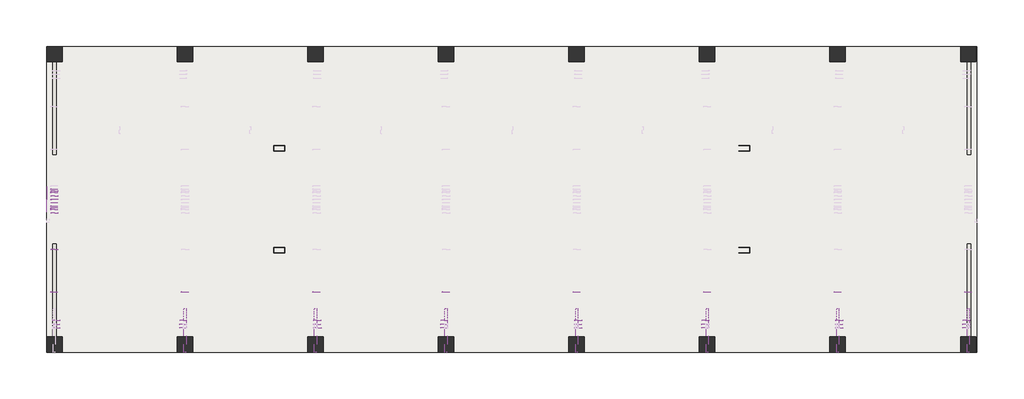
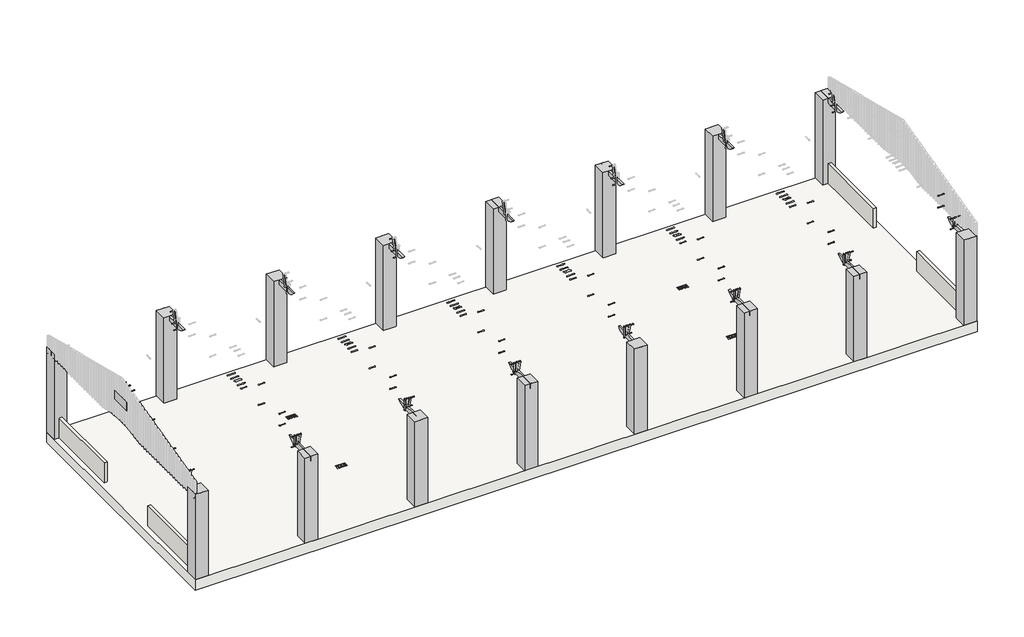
# One storey, part 1 of 3: 69 proxies, 16 columns, 4 walls, 1 slab.
"""IFC4 building model written with IfcOpenShell, lengths in millimetres."""

from ifc_helpers import new_model, si_unit, frame, origin, origin_with_axes, place, context, project, spatial, polyline, outline, extrude, faceted_brep, transform, mapped, element, save
from components import generic_models_fbdac11b, generic_models_01199cd2, generic_models_555904f9, generic_models_07221920, generic_models_79338df4, generic_models_0869e14e, generic_models_49826fd5, generic_models_b61af71a, generic_models_129ac0f9, m_coluna_retangular_430x430cm_ec2f5c71

model = new_model("IFC4")

# Units and contexts
model_context = context("Model", 3, world=origin())
ifc_project = project(units=[si_unit("LENGTHUNIT", "METRE", prefix="MILLI")], contexts=[model_context])

# Site, building, storey
site = spatial("IfcSite", under=ifc_project)
building = spatial("IfcBuilding", under=site)
storey = spatial("IfcBuildingStorey", under=building, Name="Nível 1", Elevation=0.0)

# Proxies
placement = place(None, origin())
generic_models_shape = generic_models_fbdac11b(model_context)
element("IfcBuildingElementProxy", 1, Name="Modelos genéricos 27 : Modelos genéricos 2", ObjectType="Modelos genéricos 27 : Modelos genéricos 2", at=placement, inside=storey, context=model_context, shape_type="MappedRepresentation", body=[
    mapped(generic_models_shape, transform((-57000.0, 0.0, 0.0), x_axis=(1.0, 0.0, 0.0), y_axis=(0.0, 1.0, 0.0), z_axis=(0.0, 0.0, 1.0))),
])
generic_models_2_shape = generic_models_01199cd2(model_context)
element("IfcBuildingElementProxy", 2, Name="Modelos genéricos 46 : Modelos genéricos 2", ObjectType="Modelos genéricos 46 : Modelos genéricos 2", at=placement, inside=storey, context=model_context, shape_type="MappedRepresentation", body=[
    mapped(generic_models_2_shape, transform((-57000.0, 0.0, 0.0), x_axis=(1.0, 0.0, 0.0), y_axis=(0.0, 1.0, 0.0), z_axis=(0.0, 0.0, 1.0))),
])
generic_models_3_shape = generic_models_555904f9(model_context)
element("IfcBuildingElementProxy", 3, Name="Modelos genéricos 65 : Modelos genéricos 2", ObjectType="Modelos genéricos 65 : Modelos genéricos 2", at=placement, inside=storey, context=model_context, shape_type="MappedRepresentation", body=[
    mapped(generic_models_3_shape, transform((-57000.0, 0.0, 0.0), x_axis=(1.0, 0.0, 0.0), y_axis=(0.0, 1.0, 0.0), z_axis=(0.0, 0.0, 1.0))),
])
generic_models_4_shape = generic_models_07221920(model_context)
element("IfcBuildingElementProxy", 4, Name="Modelos genéricos 84 : Modelos genéricos 2", ObjectType="Modelos genéricos 84 : Modelos genéricos 2", at=placement, inside=storey, context=model_context, shape_type="MappedRepresentation", body=[
    mapped(generic_models_4_shape, transform((-57000.0, 0.0, 0.0), x_axis=(1.0, 0.0, 0.0), y_axis=(0.0, 1.0, 0.0), z_axis=(0.0, 0.0, 1.0))),
])
generic_models_5_shape = generic_models_79338df4(model_context)
element("IfcBuildingElementProxy", 5, Name="Modelos genéricos 103 : Modelos genéricos 2", ObjectType="Modelos genéricos 103 : Modelos genéricos 2", at=placement, inside=storey, context=model_context, shape_type="MappedRepresentation", body=[
    mapped(generic_models_5_shape, transform((-57000.0, 0.0, 0.0), x_axis=(1.0, 0.0, 0.0), y_axis=(0.0, 1.0, 0.0), z_axis=(0.0, 0.0, 1.0))),
])
generic_models_6_shape = generic_models_0869e14e(model_context)
element("IfcBuildingElementProxy", 6, Name="Modelos genéricos 122 : Modelos genéricos 2", ObjectType="Modelos genéricos 122 : Modelos genéricos 2", at=placement, inside=storey, context=model_context, shape_type="MappedRepresentation", body=[
    mapped(generic_models_6_shape, transform((-57000.0, 0.0, 0.0), x_axis=(1.0, 0.0, 0.0), y_axis=(0.0, 1.0, 0.0), z_axis=(0.0, 0.0, 1.0))),
])
generic_models_7_shape = generic_models_49826fd5(model_context)
element("IfcBuildingElementProxy", 7, Name="Modelos genéricos 142 : Modelos genéricos 2", ObjectType="Modelos genéricos 142 : Modelos genéricos 2", at=placement, inside=storey, context=model_context, shape_type="MappedRepresentation", body=[
    mapped(generic_models_7_shape, transform((-57000.0, 0.0, 0.0), x_axis=(1.0, 0.0, 0.0), y_axis=(0.0, 1.0, 0.0), z_axis=(0.0, 0.0, 1.0))),
])
generic_models_8_shape = generic_models_b61af71a(model_context)
element("IfcBuildingElementProxy", 8, Name="Família5 : Família5", ObjectType="Família5 : Família5", at=placement, inside=storey, context=model_context, shape_type="MappedRepresentation", body=[
    mapped(generic_models_8_shape, transform((-12856.5527533, 1951.1238165, 3700.0), x_axis=(0.0, -1.0, 0.0), y_axis=(0.0, 0.0, 1.0), z_axis=(-1.0, 0.0, 0.0))),
])
generic_models_9_shape = generic_models_129ac0f9(model_context)
element("IfcBuildingElementProxy", 9, Name="parafuso : parafuso", ObjectType="parafuso : parafuso", at=placement, inside=storey, context=model_context, shape_type="MappedRepresentation", body=[
    mapped(generic_models_9_shape, transform((-12736.5527533, 1948.6238165, 4129.7515316), x_axis=(0.0, 1.0, 0.0), y_axis=(0.0, 0.0, -1.0), z_axis=(-1.0, 0.0, 0.0))),
])
element("IfcBuildingElementProxy", 10, Name="parafuso : parafuso", ObjectType="parafuso : parafuso", at=placement, inside=storey, context=model_context, shape_type="MappedRepresentation", body=[
    mapped(generic_models_9_shape, transform((-12736.5527533, 2183.6238165, 4104.7515316), x_axis=(0.0, 1.0, 0.0), y_axis=(0.0, 0.0, -1.0), z_axis=(-1.0, 0.0, 0.0))),
])
element("IfcBuildingElementProxy", 11, Name="parafuso : parafuso", ObjectType="parafuso : parafuso", at=placement, inside=storey, context=model_context, shape_type="MappedRepresentation", body=[
    mapped(generic_models_9_shape, transform((-12736.5527533, 1713.6238165, 4104.7515316), x_axis=(0.0, 1.0, 0.0), y_axis=(0.0, 0.0, -1.0), z_axis=(-1.0, 0.0, 0.0))),
])
element("IfcBuildingElementProxy", 12, Name="parafuso : parafuso", ObjectType="parafuso : parafuso", at=placement, inside=storey, context=model_context, shape_type="MappedRepresentation", body=[
    mapped(generic_models_9_shape, transform((-12736.5527533, 1948.6238165, 3080.0), x_axis=(0.0, 1.0, 0.0), y_axis=(0.0, 0.0, -1.0), z_axis=(-1.0, 0.0, 0.0))),
])
element("IfcBuildingElementProxy", 13, Name="parafuso : parafuso", ObjectType="parafuso : parafuso", at=placement, inside=storey, context=model_context, shape_type="MappedRepresentation", body=[
    mapped(generic_models_9_shape, transform((-12736.5527533, 2043.6238165, 3120.0), x_axis=(0.0, 1.0, 0.0), y_axis=(0.0, 0.0, -1.0), z_axis=(-1.0, 0.0, 0.0))),
])
element("IfcBuildingElementProxy", 14, Name="parafuso : parafuso", ObjectType="parafuso : parafuso", at=placement, inside=storey, context=model_context, shape_type="MappedRepresentation", body=[
    mapped(generic_models_9_shape, transform((-12736.5527533, 2138.6238165, 3040.0), x_axis=(0.0, 1.0, 0.0), y_axis=(0.0, 0.0, -1.0), z_axis=(-1.0, 0.0, 0.0))),
])
element("IfcBuildingElementProxy", 15, Name="parafuso : parafuso", ObjectType="parafuso : parafuso", at=placement, inside=storey, context=model_context, shape_type="MappedRepresentation", body=[
    mapped(generic_models_9_shape, transform((-12736.5527533, 2233.6238165, 3120.0), x_axis=(0.0, 1.0, 0.0), y_axis=(0.0, 0.0, -1.0), z_axis=(-1.0, 0.0, 0.0))),
])
element("IfcBuildingElementProxy", 16, Name="parafuso : parafuso", ObjectType="parafuso : parafuso", at=placement, inside=storey, context=model_context, shape_type="MappedRepresentation", body=[
    mapped(generic_models_9_shape, transform((-12736.5527533, 1853.6238165, 3120.0), x_axis=(0.0, 1.0, 0.0), y_axis=(0.0, 0.0, -1.0), z_axis=(-1.0, 0.0, 0.0))),
])
element("IfcBuildingElementProxy", 17, Name="parafuso : parafuso", ObjectType="parafuso : parafuso", at=placement, inside=storey, context=model_context, shape_type="MappedRepresentation", body=[
    mapped(generic_models_9_shape, transform((-12736.5527533, 1758.6238165, 3040.0), x_axis=(0.0, 1.0, 0.0), y_axis=(0.0, 0.0, -1.0), z_axis=(-1.0, 0.0, 0.0))),
])
element("IfcBuildingElementProxy", 18, Name="parafuso : parafuso", ObjectType="parafuso : parafuso", at=placement, inside=storey, context=model_context, shape_type="MappedRepresentation", body=[
    mapped(generic_models_9_shape, transform((-12736.5527533, 1663.6238165, 3120.0), x_axis=(0.0, 1.0, 0.0), y_axis=(0.0, 0.0, -1.0), z_axis=(-1.0, 0.0, 0.0))),
])
element("IfcBuildingElementProxy", 19, Name="parafuso : parafuso", ObjectType="parafuso : parafuso", at=placement, inside=storey, context=model_context, shape_type="MappedRepresentation", body=[
    mapped(generic_models_9_shape, transform((-12736.5527533, 1568.6238165, 3040.0), x_axis=(0.0, 1.0, 0.0), y_axis=(0.0, 0.0, -1.0), z_axis=(-1.0, 0.0, 0.0))),
])
element("IfcBuildingElementProxy", 20, Name="parafuso : parafuso", ObjectType="parafuso : parafuso", at=placement, inside=storey, context=model_context, shape_type="MappedRepresentation", body=[
    mapped(generic_models_9_shape, transform((-12736.5527533, 548.6238165, 3795.6961975), x_axis=(0.0, 1.0, 0.0), y_axis=(0.0, 0.0, -1.0), z_axis=(-1.0, 0.0, 0.0))),
])
element("IfcBuildingElementProxy", 21, Name="parafuso : parafuso", ObjectType="parafuso : parafuso", at=placement, inside=storey, context=model_context, shape_type="MappedRepresentation", body=[
    mapped(generic_models_9_shape, transform((-12736.5527533, -646.3761835, 3497.7492341), x_axis=(0.0, 1.0, 0.0), y_axis=(0.0, 0.0, -1.0), z_axis=(-1.0, 0.0, 0.0))),
])
element("IfcBuildingElementProxy", 22, Name="parafuso : parafuso", ObjectType="parafuso : parafuso", at=placement, inside=storey, context=model_context, shape_type="MappedRepresentation", body=[
    mapped(generic_models_9_shape, transform((-12736.5527533, -646.3761835, 3080.0), x_axis=(0.0, 1.0, 0.0), y_axis=(0.0, 0.0, -1.0), z_axis=(-1.0, 0.0, 0.0))),
])
element("IfcBuildingElementProxy", 23, Name="parafuso : parafuso", ObjectType="parafuso : parafuso", at=placement, inside=storey, context=model_context, shape_type="MappedRepresentation", body=[
    mapped(generic_models_9_shape, transform((-12736.5527533, 548.6238165, 3080.0), x_axis=(0.0, 1.0, 0.0), y_axis=(0.0, 0.0, -1.0), z_axis=(-1.0, 0.0, 0.0))),
])
element("IfcBuildingElementProxy", 24, Name="parafuso : parafuso", ObjectType="parafuso : parafuso", at=placement, inside=storey, context=model_context, shape_type="MappedRepresentation", body=[
    mapped(generic_models_9_shape, transform((-9086.5527533, -646.3761835, 3497.7492341), x_axis=(0.0, 1.0, 0.0), y_axis=(0.0, 0.0, -1.0), z_axis=(-1.0, 0.0, 0.0))),
])
element("IfcBuildingElementProxy", 25, Name="parafuso : parafuso", ObjectType="parafuso : parafuso", at=placement, inside=storey, context=model_context, shape_type="MappedRepresentation", body=[
    mapped(generic_models_9_shape, transform((-9086.5527533, -646.3761835, 3080.0), x_axis=(0.0, 1.0, 0.0), y_axis=(0.0, 0.0, -1.0), z_axis=(-1.0, 0.0, 0.0))),
])
element("IfcBuildingElementProxy", 26, Name="parafuso : parafuso", ObjectType="parafuso : parafuso", at=placement, inside=storey, context=model_context, shape_type="MappedRepresentation", body=[
    mapped(generic_models_9_shape, transform((-5406.5419071, -646.3761835, 3497.7492341), x_axis=(0.0, 1.0, 0.0), y_axis=(0.0, 0.0, -1.0), z_axis=(-1.0, 0.0, 0.0))),
])
element("IfcBuildingElementProxy", 27, Name="parafuso : parafuso", ObjectType="parafuso : parafuso", at=placement, inside=storey, context=model_context, shape_type="MappedRepresentation", body=[
    mapped(generic_models_9_shape, transform((-5406.5419071, -646.3761835, 3080.0), x_axis=(0.0, 1.0, 0.0), y_axis=(0.0, 0.0, -1.0), z_axis=(-1.0, 0.0, 0.0))),
])
element("IfcBuildingElementProxy", 28, Name="parafuso : parafuso", ObjectType="parafuso : parafuso", at=placement, inside=storey, context=model_context, shape_type="MappedRepresentation", body=[
    mapped(generic_models_9_shape, transform((-1786.5527533, -646.3761835, 3497.7492341), x_axis=(0.0, 1.0, 0.0), y_axis=(0.0, 0.0, -1.0), z_axis=(-1.0, 0.0, 0.0))),
])
element("IfcBuildingElementProxy", 29, Name="parafuso : parafuso", ObjectType="parafuso : parafuso", at=placement, inside=storey, context=model_context, shape_type="MappedRepresentation", body=[
    mapped(generic_models_9_shape, transform((-1786.5527533, -646.3761835, 3080.0), x_axis=(0.0, 1.0, 0.0), y_axis=(0.0, 0.0, -1.0), z_axis=(-1.0, 0.0, 0.0))),
])
element("IfcBuildingElementProxy", 30, Name="parafuso : parafuso", ObjectType="parafuso : parafuso", at=placement, inside=storey, context=model_context, shape_type="MappedRepresentation", body=[
    mapped(generic_models_9_shape, transform((1863.4472467, -646.3761835, 3497.7492341), x_axis=(0.0, 1.0, 0.0), y_axis=(0.0, 0.0, -1.0), z_axis=(-1.0, 0.0, 0.0))),
])
element("IfcBuildingElementProxy", 31, Name="parafuso : parafuso", ObjectType="parafuso : parafuso", at=placement, inside=storey, context=model_context, shape_type="MappedRepresentation", body=[
    mapped(generic_models_9_shape, transform((1863.4472467, -646.3761835, 3080.0), x_axis=(0.0, 1.0, 0.0), y_axis=(0.0, 0.0, -1.0), z_axis=(-1.0, 0.0, 0.0))),
])
element("IfcBuildingElementProxy", 32, Name="parafuso : parafuso", ObjectType="parafuso : parafuso", at=placement, inside=storey, context=model_context, shape_type="MappedRepresentation", body=[
    mapped(generic_models_9_shape, transform((5513.4472467, -646.3761835, 3497.7492341), x_axis=(0.0, 1.0, 0.0), y_axis=(0.0, 0.0, -1.0), z_axis=(-1.0, 0.0, 0.0))),
])
element("IfcBuildingElementProxy", 33, Name="parafuso : parafuso", ObjectType="parafuso : parafuso", at=placement, inside=storey, context=model_context, shape_type="MappedRepresentation", body=[
    mapped(generic_models_9_shape, transform((5513.4472467, -646.3761835, 3080.0), x_axis=(0.0, 1.0, 0.0), y_axis=(0.0, 0.0, -1.0), z_axis=(-1.0, 0.0, 0.0))),
])
element("IfcBuildingElementProxy", 34, Name="parafuso : parafuso", ObjectType="parafuso : parafuso", at=placement, inside=storey, context=model_context, shape_type="MappedRepresentation", body=[
    mapped(generic_models_9_shape, transform((9163.4472467, -646.3761835, 3497.7492341), x_axis=(0.0, 1.0, 0.0), y_axis=(0.0, 0.0, -1.0), z_axis=(-1.0, 0.0, 0.0))),
])
element("IfcBuildingElementProxy", 35, Name="parafuso : parafuso", ObjectType="parafuso : parafuso", at=placement, inside=storey, context=model_context, shape_type="MappedRepresentation", body=[
    mapped(generic_models_9_shape, transform((9163.4472467, -646.3761835, 3080.0), x_axis=(0.0, 1.0, 0.0), y_axis=(0.0, 0.0, -1.0), z_axis=(-1.0, 0.0, 0.0))),
])
element("IfcBuildingElementProxy", 36, Name="parafuso : parafuso", ObjectType="parafuso : parafuso", at=placement, inside=storey, context=model_context, shape_type="MappedRepresentation", body=[
    mapped(generic_models_9_shape, transform((12813.4472467, -646.3761835, 3497.7492341), x_axis=(0.0, 1.0, 0.0), y_axis=(0.0, 0.0, -1.0), z_axis=(-1.0, 0.0, 0.0))),
])
element("IfcBuildingElementProxy", 37, Name="parafuso : parafuso", ObjectType="parafuso : parafuso", at=placement, inside=storey, context=model_context, shape_type="MappedRepresentation", body=[
    mapped(generic_models_9_shape, transform((12813.4472467, -646.3761835, 3080.0), x_axis=(0.0, 1.0, 0.0), y_axis=(0.0, 0.0, -1.0), z_axis=(-1.0, 0.0, 0.0))),
])
element("IfcBuildingElementProxy", 38, Name="parafuso : parafuso", ObjectType="parafuso : parafuso", at=placement, inside=storey, context=model_context, shape_type="MappedRepresentation", body=[
    mapped(generic_models_9_shape, transform((-8953.8635995, -1441.3761835, 2820.0), x_axis=(0.0, -1.0, 0.0), y_axis=(0.0, 0.0, -1.0), z_axis=(1.0, 0.0, 0.0))),
])
element("IfcBuildingElementProxy", 39, Name="parafuso : parafuso", ObjectType="parafuso : parafuso", at=placement, inside=storey, context=model_context, shape_type="MappedRepresentation", body=[
    mapped(generic_models_9_shape, transform((-8953.8635995, -1441.3761835, 3180.0), x_axis=(0.0, -1.0, 0.0), y_axis=(0.0, 0.0, -1.0), z_axis=(1.0, 0.0, 0.0))),
])
element("IfcBuildingElementProxy", 40, Name="parafuso : parafuso", ObjectType="parafuso : parafuso", at=placement, inside=storey, context=model_context, shape_type="MappedRepresentation", body=[
    mapped(generic_models_9_shape, transform((-8953.8635995, -1650.389263, 3347.7358864), x_axis=(0.0, -1.0, 0.0), y_axis=(0.0, 0.0, -1.0), z_axis=(1.0, 0.0, 0.0))),
])
element("IfcBuildingElementProxy", 41, Name="parafuso : parafuso", ObjectType="parafuso : parafuso", at=placement, inside=storey, context=model_context, shape_type="MappedRepresentation", body=[
    mapped(generic_models_9_shape, transform((-8953.8635995, -1552.0380259, 2980.6840724), x_axis=(0.0, -1.0, 0.0), y_axis=(0.0, 0.0, -1.0), z_axis=(1.0, 0.0, 0.0))),
])
element("IfcBuildingElementProxy", 42, Name="parafuso : parafuso", ObjectType="parafuso : parafuso", at=placement, inside=storey, context=model_context, shape_type="MappedRepresentation", body=[
    mapped(generic_models_9_shape, transform((-1653.8635995, -1441.3761835, 2820.0), x_axis=(0.0, -1.0, 0.0), y_axis=(0.0, 0.0, -1.0), z_axis=(1.0, 0.0, 0.0))),
])
element("IfcBuildingElementProxy", 43, Name="parafuso : parafuso", ObjectType="parafuso : parafuso", at=placement, inside=storey, context=model_context, shape_type="MappedRepresentation", body=[
    mapped(generic_models_9_shape, transform((-1653.8635995, -1441.3761835, 3180.0), x_axis=(0.0, -1.0, 0.0), y_axis=(0.0, 0.0, -1.0), z_axis=(1.0, 0.0, 0.0))),
])
element("IfcBuildingElementProxy", 44, Name="parafuso : parafuso", ObjectType="parafuso : parafuso", at=placement, inside=storey, context=model_context, shape_type="MappedRepresentation", body=[
    mapped(generic_models_9_shape, transform((-1653.8635995, -1650.389263, 3347.7358864), x_axis=(0.0, -1.0, 0.0), y_axis=(0.0, 0.0, -1.0), z_axis=(1.0, 0.0, 0.0))),
])
element("IfcBuildingElementProxy", 45, Name="parafuso : parafuso", ObjectType="parafuso : parafuso", at=placement, inside=storey, context=model_context, shape_type="MappedRepresentation", body=[
    mapped(generic_models_9_shape, transform((-1653.8635995, -1552.0380259, 2980.6840724), x_axis=(0.0, -1.0, 0.0), y_axis=(0.0, 0.0, -1.0), z_axis=(1.0, 0.0, 0.0))),
])
element("IfcBuildingElementProxy", 46, Name="parafuso : parafuso", ObjectType="parafuso : parafuso", at=placement, inside=storey, context=model_context, shape_type="MappedRepresentation", body=[
    mapped(generic_models_9_shape, transform((5646.1364005, -1441.3761835, 2820.0), x_axis=(0.0, -1.0, 0.0), y_axis=(0.0, 0.0, -1.0), z_axis=(1.0, 0.0, 0.0))),
])
element("IfcBuildingElementProxy", 47, Name="parafuso : parafuso", ObjectType="parafuso : parafuso", at=placement, inside=storey, context=model_context, shape_type="MappedRepresentation", body=[
    mapped(generic_models_9_shape, transform((5646.1364005, -1441.3761835, 3180.0), x_axis=(0.0, -1.0, 0.0), y_axis=(0.0, 0.0, -1.0), z_axis=(1.0, 0.0, 0.0))),
])
element("IfcBuildingElementProxy", 48, Name="parafuso : parafuso", ObjectType="parafuso : parafuso", at=placement, inside=storey, context=model_context, shape_type="MappedRepresentation", body=[
    mapped(generic_models_9_shape, transform((5646.1364005, -1650.389263, 3347.7358864), x_axis=(0.0, -1.0, 0.0), y_axis=(0.0, 0.0, -1.0), z_axis=(1.0, 0.0, 0.0))),
])
element("IfcBuildingElementProxy", 49, Name="parafuso : parafuso", ObjectType="parafuso : parafuso", at=placement, inside=storey, context=model_context, shape_type="MappedRepresentation", body=[
    mapped(generic_models_9_shape, transform((5646.1364005, -1552.0380259, 2980.6840724), x_axis=(0.0, -1.0, 0.0), y_axis=(0.0, 0.0, -1.0), z_axis=(1.0, 0.0, 0.0))),
])
element("IfcBuildingElementProxy", 50, Name="parafuso : parafuso", ObjectType="parafuso : parafuso", at=placement, inside=storey, context=model_context, shape_type="MappedRepresentation", body=[
    mapped(generic_models_9_shape, transform((12946.1364005, -1441.3761835, 2820.0), x_axis=(0.0, -1.0, 0.0), y_axis=(0.0, 0.0, -1.0), z_axis=(1.0, 0.0, 0.0))),
])
element("IfcBuildingElementProxy", 51, Name="parafuso : parafuso", ObjectType="parafuso : parafuso", at=placement, inside=storey, context=model_context, shape_type="MappedRepresentation", body=[
    mapped(generic_models_9_shape, transform((12946.1364005, -1441.3761835, 3180.0), x_axis=(0.0, -1.0, 0.0), y_axis=(0.0, 0.0, -1.0), z_axis=(1.0, 0.0, 0.0))),
])
element("IfcBuildingElementProxy", 52, Name="parafuso : parafuso", ObjectType="parafuso : parafuso", at=placement, inside=storey, context=model_context, shape_type="MappedRepresentation", body=[
    mapped(generic_models_9_shape, transform((12946.1364005, -1650.389263, 3347.7358864), x_axis=(0.0, -1.0, 0.0), y_axis=(0.0, 0.0, -1.0), z_axis=(1.0, 0.0, 0.0))),
])
element("IfcBuildingElementProxy", 53, Name="parafuso : parafuso", ObjectType="parafuso : parafuso", at=placement, inside=storey, context=model_context, shape_type="MappedRepresentation", body=[
    mapped(generic_models_9_shape, transform((12946.1364005, -1552.0380259, 2980.6840724), x_axis=(0.0, -1.0, 0.0), y_axis=(0.0, 0.0, -1.0), z_axis=(1.0, 0.0, 0.0))),
])
element("IfcBuildingElementProxy", 54, Name="parafuso : parafuso", ObjectType="parafuso : parafuso", at=placement, inside=storey, context=model_context, shape_type="MappedRepresentation", body=[
    mapped(generic_models_9_shape, transform((-12689.2419071, -1441.3761835, 2820.0), x_axis=(0.0, -1.0, 0.0), y_axis=(0.0, 0.0, 1.0), z_axis=(-1.0, 0.0, 0.0))),
])
element("IfcBuildingElementProxy", 55, Name="parafuso : parafuso", ObjectType="parafuso : parafuso", at=placement, inside=storey, context=model_context, shape_type="MappedRepresentation", body=[
    mapped(generic_models_9_shape, transform((-12689.2419071, -1441.3761835, 3180.0), x_axis=(0.0, -1.0, 0.0), y_axis=(0.0, 0.0, 1.0), z_axis=(-1.0, 0.0, 0.0))),
])
element("IfcBuildingElementProxy", 56, Name="parafuso : parafuso", ObjectType="parafuso : parafuso", at=placement, inside=storey, context=model_context, shape_type="MappedRepresentation", body=[
    mapped(generic_models_9_shape, transform((-12689.2419071, -1650.389263, 3347.7358864), x_axis=(0.0, -1.0, 0.0), y_axis=(0.0, 0.0, 1.0), z_axis=(-1.0, 0.0, 0.0))),
])
element("IfcBuildingElementProxy", 57, Name="parafuso : parafuso", ObjectType="parafuso : parafuso", at=placement, inside=storey, context=model_context, shape_type="MappedRepresentation", body=[
    mapped(generic_models_9_shape, transform((-12689.2419071, -1552.0380259, 2980.6840724), x_axis=(0.0, -1.0, 0.0), y_axis=(0.0, 0.0, 1.0), z_axis=(-1.0, 0.0, 0.0))),
])
element("IfcBuildingElementProxy", 58, Name="parafuso : parafuso", ObjectType="parafuso : parafuso", at=placement, inside=storey, context=model_context, shape_type="MappedRepresentation", body=[
    mapped(generic_models_9_shape, transform((1910.7580929, -1441.3761835, 2820.0), x_axis=(0.0, -1.0, 0.0), y_axis=(0.0, 0.0, 1.0), z_axis=(-1.0, 0.0, 0.0))),
])
element("IfcBuildingElementProxy", 59, Name="parafuso : parafuso", ObjectType="parafuso : parafuso", at=placement, inside=storey, context=model_context, shape_type="MappedRepresentation", body=[
    mapped(generic_models_9_shape, transform((1910.7580929, -1441.3761835, 3180.0), x_axis=(0.0, -1.0, 0.0), y_axis=(0.0, 0.0, 1.0), z_axis=(-1.0, 0.0, 0.0))),
])
element("IfcBuildingElementProxy", 60, Name="parafuso : parafuso", ObjectType="parafuso : parafuso", at=placement, inside=storey, context=model_context, shape_type="MappedRepresentation", body=[
    mapped(generic_models_9_shape, transform((1910.7580929, -1650.389263, 3347.7358864), x_axis=(0.0, -1.0, 0.0), y_axis=(0.0, 0.0, 1.0), z_axis=(-1.0, 0.0, 0.0))),
])
element("IfcBuildingElementProxy", 61, Name="parafuso : parafuso", ObjectType="parafuso : parafuso", at=placement, inside=storey, context=model_context, shape_type="MappedRepresentation", body=[
    mapped(generic_models_9_shape, transform((1910.7580929, -1552.0380259, 2980.6840724), x_axis=(0.0, -1.0, 0.0), y_axis=(0.0, 0.0, 1.0), z_axis=(-1.0, 0.0, 0.0))),
])
element("IfcBuildingElementProxy", 62, Name="parafuso : parafuso", ObjectType="parafuso : parafuso", at=placement, inside=storey, context=model_context, shape_type="MappedRepresentation", body=[
    mapped(generic_models_9_shape, transform((9210.7580929, -1441.3761835, 2820.0), x_axis=(0.0, -1.0, 0.0), y_axis=(0.0, 0.0, 1.0), z_axis=(-1.0, 0.0, 0.0))),
])
element("IfcBuildingElementProxy", 63, Name="parafuso : parafuso", ObjectType="parafuso : parafuso", at=placement, inside=storey, context=model_context, shape_type="MappedRepresentation", body=[
    mapped(generic_models_9_shape, transform((9210.7580929, -1441.3761835, 3180.0), x_axis=(0.0, -1.0, 0.0), y_axis=(0.0, 0.0, 1.0), z_axis=(-1.0, 0.0, 0.0))),
])
element("IfcBuildingElementProxy", 64, Name="parafuso : parafuso", ObjectType="parafuso : parafuso", at=placement, inside=storey, context=model_context, shape_type="MappedRepresentation", body=[
    mapped(generic_models_9_shape, transform((9210.7580929, -1650.389263, 3347.7358864), x_axis=(0.0, -1.0, 0.0), y_axis=(0.0, 0.0, 1.0), z_axis=(-1.0, 0.0, 0.0))),
])
element("IfcBuildingElementProxy", 65, Name="parafuso : parafuso", ObjectType="parafuso : parafuso", at=placement, inside=storey, context=model_context, shape_type="MappedRepresentation", body=[
    mapped(generic_models_9_shape, transform((9210.7580929, -1552.0380259, 2980.6840724), x_axis=(0.0, -1.0, 0.0), y_axis=(0.0, 0.0, 1.0), z_axis=(-1.0, 0.0, 0.0))),
])
element("IfcBuildingElementProxy", 66, Name="parafuso : TIPO 2 MENOR", ObjectType="parafuso : TIPO 2 MENOR", at=placement, inside=storey, context=model_context, shape_type="MappedRepresentation", body=[
    mapped(generic_models_9_shape, transform((-5389.2419071, -1441.3761835, 2820.0), x_axis=(0.0, -1.0, 0.0), y_axis=(0.0, 0.0, 1.0), z_axis=(-1.0, 0.0, 0.0))),
])
element("IfcBuildingElementProxy", 67, Name="parafuso : TIPO 2 MENOR", ObjectType="parafuso : TIPO 2 MENOR", at=placement, inside=storey, context=model_context, shape_type="MappedRepresentation", body=[
    mapped(generic_models_9_shape, transform((-5389.2419071, -1441.3761835, 3180.0), x_axis=(0.0, -1.0, 0.0), y_axis=(0.0, 0.0, 1.0), z_axis=(-1.0, 0.0, 0.0))),
])
element("IfcBuildingElementProxy", 68, Name="parafuso : TIPO 2 MENOR", ObjectType="parafuso : TIPO 2 MENOR", at=placement, inside=storey, context=model_context, shape_type="MappedRepresentation", body=[
    mapped(generic_models_9_shape, transform((-5379.5419071, -1650.389263, 3347.7358864), x_axis=(0.0, -1.0, 0.0), y_axis=(0.0, 0.0, 1.0), z_axis=(-1.0, 0.0, 0.0))),
])
element("IfcBuildingElementProxy", 69, Name="parafuso : TIPO 2 MENOR", ObjectType="parafuso : TIPO 2 MENOR", at=placement, inside=storey, context=model_context, shape_type="MappedRepresentation", body=[
    mapped(generic_models_9_shape, transform((-5389.2419071, -1552.0380259, 2980.6840724), x_axis=(0.0, -1.0, 0.0), y_axis=(0.0, 0.0, 1.0), z_axis=(-1.0, 0.0, 0.0))),
])

# Columns
element("IfcColumn", 70, ObjectType="M_Coluna retangular : 430x430cm", at=placement, inside=storey, context=model_context, shape_type="Brep", body=[
    faceted_brep([(-12431.5527533, 6228.6238165, 3000.0), (-12861.5527533, 6228.6238165, 3000.0), (-12861.5527533, 5798.6238165, 3000.0), (-12431.5527533, 5798.6238165, 3000.0), (-12431.5527533, 6228.6238165, 0.0), (-12431.5527533, 5798.6238165, 0.0), (-12596.5527533, 5798.6238165, 0.0), (-12696.5527533, 5798.6238165, 0.0), (-12861.5527533, 5798.6238165, 0.0), (-12861.5527533, 6228.6238165, 0.0)], [[[0, 1, 2, 3]], [[4, 5, 6, 7, 8, 9]], [[1, 0, 4, 9]], [[2, 1, 9, 8]], [[3, 2, 8, 7, 6, 5]], [[0, 3, 5, 4]]]),
])
element("IfcColumn", 71, ObjectType="M_Coluna retangular : 430x430cm", at=placement, inside=storey, context=model_context, shape_type="Brep", body=[
    faceted_brep([(-12431.5527533, -1901.3761835, 3000.0), (-12861.5527533, -1901.3761835, 3000.0), (-12861.5527533, -2331.3761835, 3000.0), (-12431.5527533, -2331.3761835, 3000.0), (-12431.5527533, -1901.3761835, 0.0), (-12431.5527533, -2331.3761835, 0.0), (-12861.5527533, -2331.3761835, 0.0), (-12861.5527533, -1901.3761835, 0.0), (-12696.5527533, -1901.3761835, 0.0), (-12596.5527533, -1901.3761835, 0.0)], [[[0, 1, 2, 3]], [[4, 5, 6, 7, 8, 9]], [[1, 0, 4, 9, 8, 7]], [[2, 1, 7, 6]], [[3, 2, 6, 5]], [[0, 3, 5, 4]]]),
])
element("IfcColumn", 72, ObjectType="M_Coluna retangular : 430x430cm", at=placement, inside=storey, context=model_context, shape_type="Brep", body=[
    faceted_brep([(13118.4472467, 6228.6238165, 3000.0), (12688.4472467, 6228.6238165, 3000.0), (12688.4472467, 5798.6238165, 3000.0), (13118.4472467, 5798.6238165, 3000.0), (13118.4472467, 6228.6238165, 0.0), (13118.4472467, 5798.6238165, 0.0), (12973.4472467, 5798.6238165, 0.0), (12873.4472467, 5798.6238165, 0.0), (12688.4472467, 5798.6238165, 0.0), (12688.4472467, 6228.6238165, 0.0)], [[[0, 1, 2, 3]], [[4, 5, 6, 7, 8, 9]], [[1, 0, 4, 9]], [[2, 1, 9, 8]], [[3, 2, 8, 7, 6, 5]], [[0, 3, 5, 4]]]),
])
element("IfcColumn", 73, ObjectType="M_Coluna retangular : 430x430cm", at=placement, inside=storey, context=model_context, shape_type="Brep", body=[
    faceted_brep([(13118.4472467, -1901.3761835, 3000.0), (12688.4472467, -1901.3761835, 3000.0), (12688.4472467, -2331.3761835, 3000.0), (13118.4472467, -2331.3761835, 3000.0), (13118.4472467, -1901.3761835, 0.0), (13118.4472467, -2331.3761835, 0.0), (12688.4472467, -2331.3761835, 0.0), (12688.4472467, -1901.3761835, 0.0), (12873.4472467, -1901.3761835, 0.0), (12973.4472467, -1901.3761835, 0.0)], [[[0, 1, 2, 3]], [[4, 5, 6, 7, 8, 9]], [[1, 0, 4, 9, 8, 7]], [[2, 1, 7, 6]], [[3, 2, 6, 5]], [[0, 3, 5, 4]]]),
])
m_coluna_retangular_430x430cm_shape = m_coluna_retangular_430x430cm_ec2f5c71(model_context)
element("IfcColumn", 74, ObjectType="M_Coluna retangular : 430x430cm", at=placement, inside=storey, context=model_context, shape_type="MappedRepresentation", body=[
    mapped(m_coluna_retangular_430x430cm_shape, transform((-8996.5527533, 6013.6238165, 0.0), x_axis=(1.0, 0.0, 0.0), y_axis=(0.0, 1.0, 0.0), z_axis=(0.0, 0.0, 1.0))),
])
element("IfcColumn", 75, ObjectType="M_Coluna retangular : 430x430cm", at=placement, inside=storey, context=model_context, shape_type="MappedRepresentation", body=[
    mapped(m_coluna_retangular_430x430cm_shape, transform((-8996.5527533, -2116.3761835, 0.0), x_axis=(1.0, 0.0, 0.0), y_axis=(0.0, 1.0, 0.0), z_axis=(0.0, 0.0, 1.0))),
])
element("IfcColumn", 76, ObjectType="M_Coluna retangular : 430x430cm", at=placement, inside=storey, context=model_context, shape_type="MappedRepresentation", body=[
    mapped(m_coluna_retangular_430x430cm_shape, transform((-5346.5527533, 6013.6238165, 0.0), x_axis=(1.0, 0.0, 0.0), y_axis=(0.0, 1.0, 0.0), z_axis=(0.0, 0.0, 1.0))),
])
element("IfcColumn", 77, ObjectType="M_Coluna retangular : 430x430cm", at=placement, inside=storey, context=model_context, shape_type="MappedRepresentation", body=[
    mapped(m_coluna_retangular_430x430cm_shape, transform((-5346.5527533, -2116.3761835, 0.0), x_axis=(1.0, 0.0, 0.0), y_axis=(0.0, 1.0, 0.0), z_axis=(0.0, 0.0, 1.0))),
])
element("IfcColumn", 78, ObjectType="M_Coluna retangular : 430x430cm", at=placement, inside=storey, context=model_context, shape_type="MappedRepresentation", body=[
    mapped(m_coluna_retangular_430x430cm_shape, transform((-1696.5527533, 6013.6238165, 0.0), x_axis=(1.0, 0.0, 0.0), y_axis=(0.0, 1.0, 0.0), z_axis=(0.0, 0.0, 1.0))),
])
element("IfcColumn", 79, ObjectType="M_Coluna retangular : 430x430cm", at=placement, inside=storey, context=model_context, shape_type="MappedRepresentation", body=[
    mapped(m_coluna_retangular_430x430cm_shape, transform((-1696.5527533, -2116.3761835, 0.0), x_axis=(1.0, 0.0, 0.0), y_axis=(0.0, 1.0, 0.0), z_axis=(0.0, 0.0, 1.0))),
])
element("IfcColumn", 80, ObjectType="M_Coluna retangular : 430x430cm", at=placement, inside=storey, context=model_context, shape_type="MappedRepresentation", body=[
    mapped(m_coluna_retangular_430x430cm_shape, transform((1953.4472467, 6013.6238165, 0.0), x_axis=(1.0, 0.0, 0.0), y_axis=(0.0, 1.0, 0.0), z_axis=(0.0, 0.0, 1.0))),
])
element("IfcColumn", 81, ObjectType="M_Coluna retangular : 430x430cm", at=placement, inside=storey, context=model_context, shape_type="MappedRepresentation", body=[
    mapped(m_coluna_retangular_430x430cm_shape, transform((1953.4472467, -2116.3761835, 0.0), x_axis=(1.0, 0.0, 0.0), y_axis=(0.0, 1.0, 0.0), z_axis=(0.0, 0.0, 1.0))),
])
element("IfcColumn", 82, ObjectType="M_Coluna retangular : 430x430cm", at=placement, inside=storey, context=model_context, shape_type="MappedRepresentation", body=[
    mapped(m_coluna_retangular_430x430cm_shape, transform((5603.4472467, 6013.6238165, 0.0), x_axis=(1.0, 0.0, 0.0), y_axis=(0.0, 1.0, 0.0), z_axis=(0.0, 0.0, 1.0))),
])
element("IfcColumn", 83, ObjectType="M_Coluna retangular : 430x430cm", at=placement, inside=storey, context=model_context, shape_type="MappedRepresentation", body=[
    mapped(m_coluna_retangular_430x430cm_shape, transform((5603.4472467, -2116.3761835, 0.0), x_axis=(1.0, 0.0, 0.0), y_axis=(0.0, 1.0, 0.0), z_axis=(0.0, 0.0, 1.0))),
])
element("IfcColumn", 84, ObjectType="M_Coluna retangular : 430x430cm", at=placement, inside=storey, context=model_context, shape_type="MappedRepresentation", body=[
    mapped(m_coluna_retangular_430x430cm_shape, transform((9253.4472467, 6013.6238165, 0.0), x_axis=(1.0, 0.0, 0.0), y_axis=(0.0, 1.0, 0.0), z_axis=(0.0, 0.0, 1.0))),
])
element("IfcColumn", 85, ObjectType="M_Coluna retangular : 430x430cm", at=placement, inside=storey, context=model_context, shape_type="MappedRepresentation", body=[
    mapped(m_coluna_retangular_430x430cm_shape, transform((9253.4472467, -2116.3761835, 0.0), x_axis=(1.0, 0.0, 0.0), y_axis=(0.0, 1.0, 0.0), z_axis=(0.0, 0.0, 1.0))),
])

# Slab
element("IfcSlab", 86, ObjectType="Concreto-comercial 362 mm", at=placement, inside=storey, context=model_context, shape_type="SweptSolid", body=[
    extrude(outline(polyline([(13138.4472467, 6228.6238165), (13138.4472467, -2331.3761835), (-12861.5527533, -2331.3761835), (-12861.5527533, 6228.6238165), (13138.4472467, 6228.6238165)])), frame((0.0, 0.0, -362.0), z_axis=(0.0, 0.0, 1.0), x_axis=(1.0, 0.0, 0.0)), (0.0, 0.0, 1.0), 362.0),
])

# Walls
element("IfcWall", 87, ObjectType="Genérico - 10cm", at=placement, inside=storey, context=model_context, shape_type="SweptSolid", body=[
    extrude(outline(polyline([(-12696.5527533, 3198.4571498), (-12696.5527533, 5798.6238165), (-12596.5527533, 5798.6238165), (-12596.5527533, 3198.4571498), (-12696.5527533, 3198.4571498)])), origin_with_axes(), (0.0, 0.0, 1.0), 700.0),
])
element("IfcWall", 88, ObjectType="Genérico - 10cm", at=placement, inside=storey, context=model_context, shape_type="SweptSolid", body=[
    extrude(outline(polyline([(-12696.5527533, -1901.3761835), (-12696.5527533, 698.7904832), (-12596.5527533, 698.7904832), (-12596.5527533, -1901.3761835), (-12696.5527533, -1901.3761835)])), origin_with_axes(), (0.0, 0.0, 1.0), 700.0),
])
element("IfcWall", 89, ObjectType="Genérico - 10cm", at=placement, inside=storey, context=model_context, shape_type="SweptSolid", body=[
    extrude(outline(polyline([(12873.4472467, 3198.4571498), (12873.4472467, 5798.6238165), (12973.4472467, 5798.6238165), (12973.4472467, 3198.4571498), (12873.4472467, 3198.4571498)])), origin_with_axes(), (0.0, 0.0, 1.0), 700.0),
])
element("IfcWall", 90, ObjectType="Genérico - 10cm", at=placement, inside=storey, context=model_context, shape_type="SweptSolid", body=[
    extrude(outline(polyline([(12873.4472467, -1901.3761835), (12873.4472467, 698.7904832), (12973.4472467, 698.7904832), (12973.4472467, -1901.3761835), (12873.4472467, -1901.3761835)])), origin_with_axes(), (0.0, 0.0, 1.0), 700.0),
])

save(model, "model.ifc")
